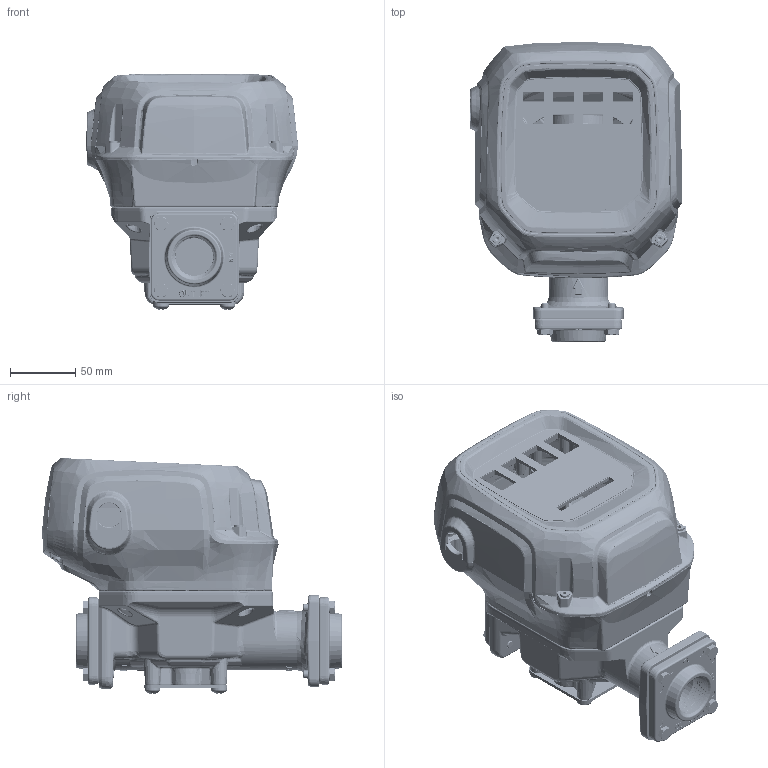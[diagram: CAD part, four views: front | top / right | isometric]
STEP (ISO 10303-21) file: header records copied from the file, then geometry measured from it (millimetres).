
FILE_DESCRIPTION(/* description */ (''),/* implementation_level */ '2;1');
FILE_NAME(/* name */ 'C:\Vault Projects\GPI Eng\Pump Application Models\QM40\QM40_Modular2.stp',/* time_stamp */ '2023-04-12T10:30:44-05:00',/* author */ ('gdanhar'),/* organization */ (''),/* preprocessor_version */ 'ST-DEVELOPER v18.1',/* originating_system */ 'Autodesk Inventor 2022',/* authorisation */ '');
FILE_SCHEMA (('AUTOMOTIVE_DESIGN { 1 0 10303 214 3 1 1 }'));
Products named in the file (1): QM40_Modular
Bounding box: 162.01 x 228.82 x 180.06 mm (x, y, z)
Volume: 859613.2 mm3; surface area: 317913.3 mm2
Topology: 2 solids, 64 shells, 6580 faces, 16428 edges, 10016 vertices
Faces by surface type: bspline 2751, cylinder 1600, plane 1167, torus 416, cone 347, sphere 299
Full cylindrical faces by diameter (mm): 2.962 x14, 2.989 x6, 3.302 x4, 3.454 x2, 4 x24, 5.001 x10, 5.781 x1, 5.838 x1, 5.994 x15, 6 x33, 6.078 x18, 6.093 x27, 6.096 x16, 6.35 x4, 7 x4, 8.88 x8, 10 x4, 11.989 x4, 32.258 x1
Entity records: 458914 total; most frequent: CARTESIAN_POINT 314171, ORIENTED_EDGE 32636, DIRECTION 22756, EDGE_CURVE 16318, VERTEX_POINT 10001, AXIS2_PLACEMENT_3D 9422, EDGE_LOOP 6793, B_SPLINE_CURVE_WITH_KNOTS 6621
